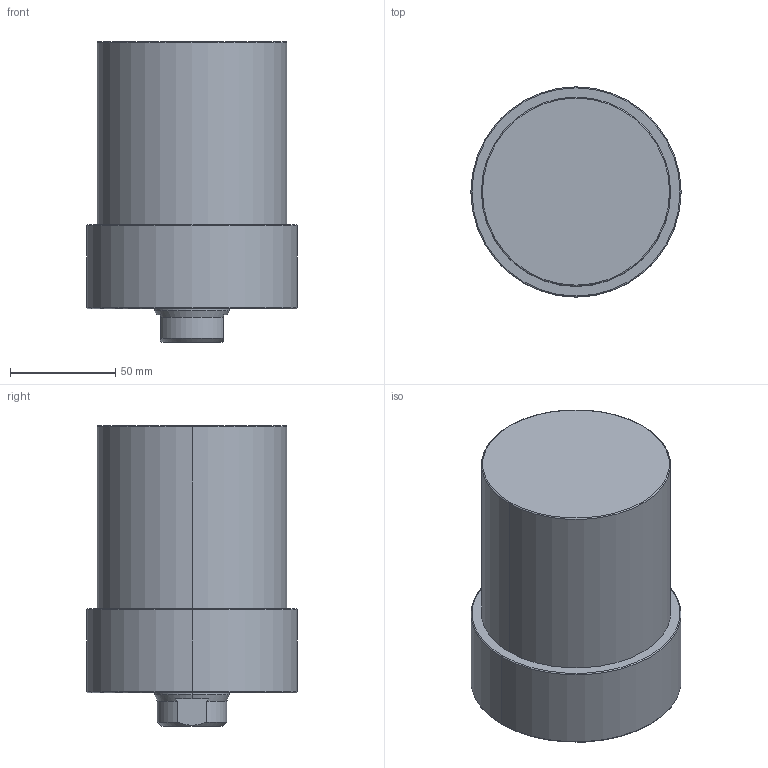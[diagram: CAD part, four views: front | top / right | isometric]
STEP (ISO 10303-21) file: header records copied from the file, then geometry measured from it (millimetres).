
FILE_DESCRIPTION (( 'STEP AP203' ), '1' );
FILE_NAME ('CLLU-090CA-065.STEP', '2020-01-11T00:39:28', ( '' ), ( '' ), 'SwSTEP 2.0', 'SolidWorks 2015', '' );
FILE_SCHEMA (( 'CONFIG_CONTROL_DESIGN' ));
Length unit declared in the file: millimetre
Products named in the file (1): CLLU-090CA-065
Bounding box: 100 x 100 x 143 mm (x, y, z)
Volume: 863178.9 mm3; surface area: 59448.1 mm2
Topology: 1 solids, 1 shells, 62 faces, 140 edges, 79 vertices
Faces by surface type: cone 24, cylinder 22, plane 10, torus 6
Entity records: 1767 total; most frequent: DIRECTION 320, CARTESIAN_POINT 316, ORIENTED_EDGE 260, AXIS2_PLACEMENT_3D 135, EDGE_CURVE 130, VERTEX_POINT 79, CIRCLE 72, EDGE_LOOP 71
